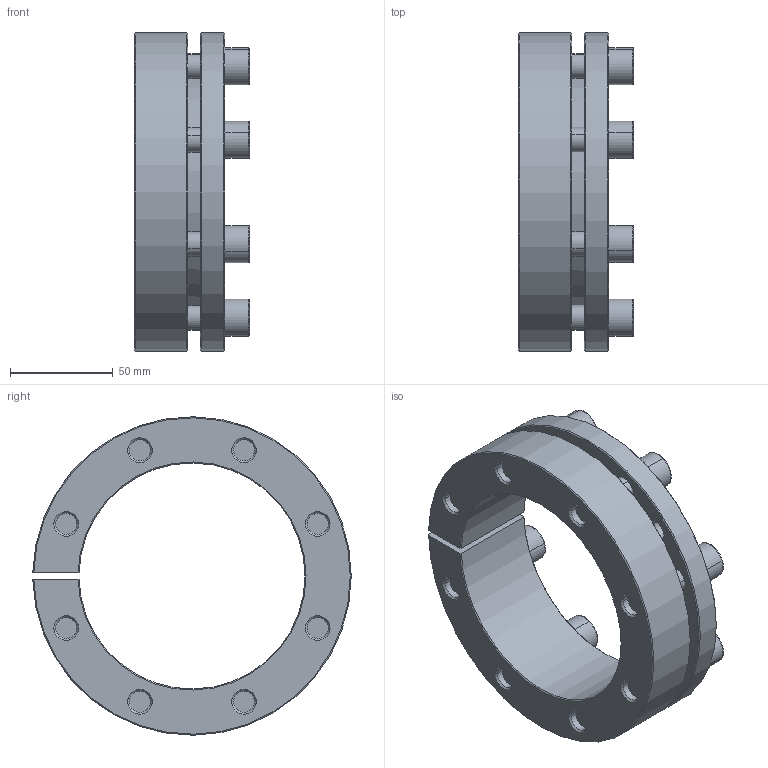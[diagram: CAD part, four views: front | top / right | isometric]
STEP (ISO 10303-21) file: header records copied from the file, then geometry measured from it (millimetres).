
FILE_DESCRIPTION((''),'2;1');
FILE_NAME('398-010-0110','2024-02-17T',('Brieden'),('Brieden'),'PRO/ENGINEER BY PARAMETRIC TECHNOLOGY CORPORATION, 2010160','PRO/ENGINEER BY PARAMETRIC TECHNOLOGY CORPORATION, 2010160','');
FILE_SCHEMA(('AUTOMOTIVE_DESIGN { 1 0 10303 214 1 1 1 1 }'));
Length unit declared in the file: millimetre
Products named in the file (1): 398-010-0110
Bounding box: 56 x 154.99 x 154.99 mm (x, y, z)
Volume: 378478.6 mm3; surface area: 95049.8 mm2
Topology: 1 solids, 9 shells, 232 faces, 546 edges, 348 vertices
Faces by surface type: cylinder 91, plane 86, cone 39, torus 16
Entity records: 8722 total; most frequent: DIRECTION 1256, CARTESIAN_POINT 1199, ORIENTED_EDGE 1060, PRESENTATION_STYLE_ASSIGNMENT 569, STYLED_ITEM 555, CURVE_STYLE 546, EDGE_CURVE 546, AXIS2_PLACEMENT_3D 489
